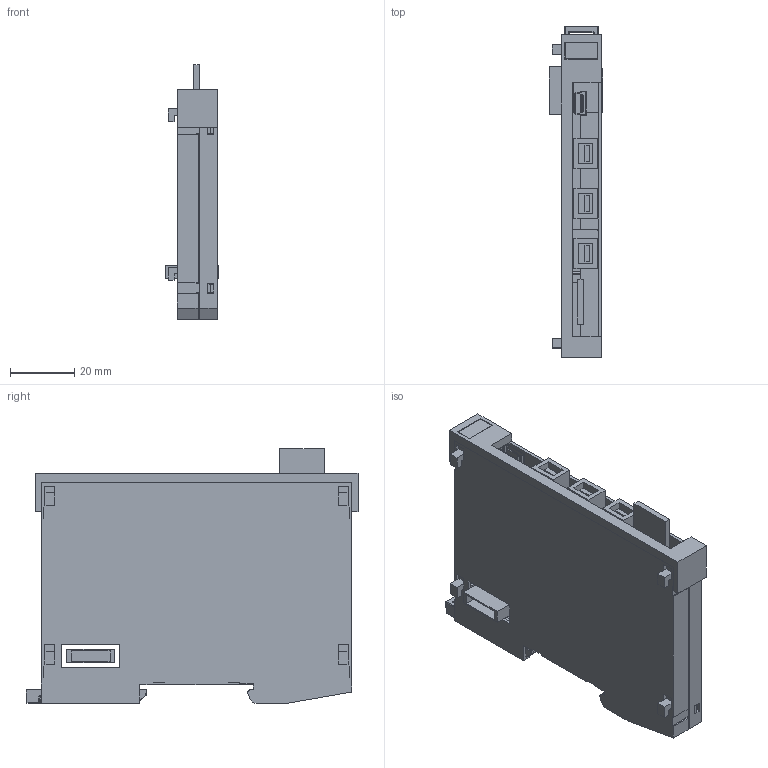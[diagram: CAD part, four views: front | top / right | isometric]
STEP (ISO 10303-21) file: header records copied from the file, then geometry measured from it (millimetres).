
FILE_DESCRIPTION (( 'STEP AP214' ), '1' );
FILE_NAME ('CP112.STEP', '2016-01-22T09:01:35', ( 'SIGMATEK GmbH & Co KG' ), ( 'SIGMATEK GmbH & Co KG' ), 'SwSTEP 2.0', 'SolidWorks 2015', '' );
FILE_SCHEMA (( 'AUTOMOTIVE_DESIGN' ));
Length unit declared in the file: millimetre
Products named in the file (12): LP_CP112; Dummy_4080225345 Erni Buchse; Dummy_4080225346 Erni Stift; Dummy_4080225147 & 751771034 Micro SD Connector incl. SD-Card; Dummy_4080225387; Dummy_4080225241 MINI USB; S-Dias Rasthaken 20130313; Schieber_f Suport; S-Dias Schale rechts_f Suport; S-Dias Schale links_f Suport; 4110251342_MF 10-5 MC CABUR_1854510000; CP112
Assembly tree (13 placements, depth 3):
  CP112
    4110251342_MF 10-5 MC CABUR_1854510000
    S-Dias Schale links_f Suport
    S-Dias Schale rechts_f Suport
    Schieber_f Suport
    S-Dias Rasthaken 20130313
    LP_CP112
      Dummy_4080225241 MINI USB
      Dummy_4080225387  x3
      Dummy_4080225147 & 751771034 Micro SD Connector incl. SD-Card
      Dummy_4080225346 Erni Stift
      Dummy_4080225345 Erni Buchse
Bounding box: 16.8 x 103.61 x 79.44 mm (x, y, z)
Volume: 23294.4 mm3; surface area: 42863.3 mm2
Topology: 12 solids, 12 shells, 861 faces, 2475 edges, 1630 vertices
Faces by surface type: plane 586, cylinder 156, bspline 55, cone 28, torus 19, sphere 17
Entity records: 32057 total; most frequent: CARTESIAN_POINT 7512, ORIENTED_EDGE 4756, DIRECTION 3801, EDGE_CURVE 2378, VECTOR 1669, LINE 1669, VERTEX_POINT 1574, AXIS2_PLACEMENT_3D 1066
